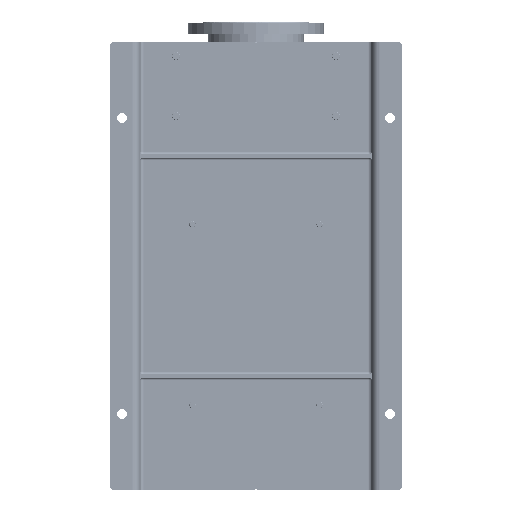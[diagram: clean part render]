
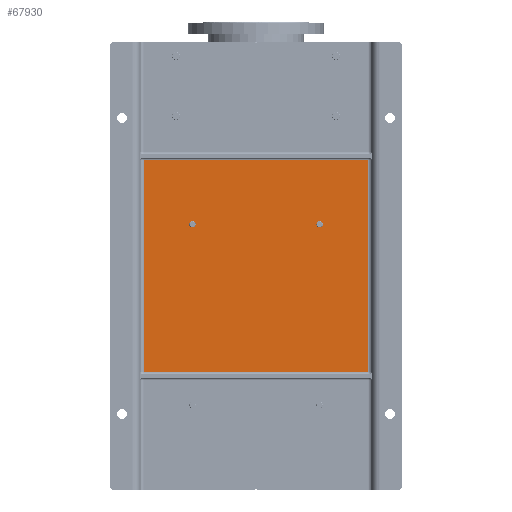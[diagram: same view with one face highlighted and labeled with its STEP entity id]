
A CAD part, front view. The second image highlights one B-rep face of the part: STEP entity #67930.
In plain terms, the highlighted planar face has unit normal (0, -1, 0).
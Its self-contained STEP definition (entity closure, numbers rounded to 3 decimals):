
#5857 = FACE_OUTER_BOUND ( 'NONE', #114286, .T. ) ;
#7331 = FACE_BOUND ( 'NONE', #181977, .T. ) ;
#8151 = CARTESIAN_POINT ( 'NONE',  ( 85., 90., -830. ) ) ;
#12058 = ORIENTED_EDGE ( 'NONE', *, *, #94462, .T. ) ;
#21697 = CARTESIAN_POINT ( 'NONE',  ( 645., 90., -295. ) ) ;
#23777 = DIRECTION ( 'NONE',  ( 0., 1., 0. ) ) ;
#28966 = EDGE_CURVE ( 'NONE', #144060, #136565, #280343, .T. ) ;
#29026 = CARTESIAN_POINT ( 'NONE',  ( 206., 90., -455.65 ) ) ;
#30212 = DIRECTION ( 'NONE',  ( 0., -1., 0. ) ) ;
#37233 = CIRCLE ( 'NONE', #270954, 8. ) ;
#42273 = EDGE_CURVE ( 'NONE', #57555, #279715, #37233, .T. ) ;
#44111 = VERTEX_POINT ( 'NONE', #119562 ) ;
#51928 = DIRECTION ( 'NONE',  ( 0., 1., 0. ) ) ;
#52429 = DIRECTION ( 'NONE',  ( 0., 0., -1. ) ) ;
#53102 = CARTESIAN_POINT ( 'NONE',  ( 75., 90., -1120. ) ) ;
#57555 = VERTEX_POINT ( 'NONE', #64915 ) ;
#60870 = LINE ( 'NONE', #173695, #184349 ) ;
#61190 = LINE ( 'NONE', #109921, #170456 ) ;
#64915 = CARTESIAN_POINT ( 'NONE',  ( 524., 90., -463.65 ) ) ;
#67930 = ADVANCED_FACE ( 'NONE', ( #146028, #7331, #5857 ), #168915, .T. ) ;
#68154 = CIRCLE ( 'NONE', #287288, 8. ) ;
#70028 = EDGE_CURVE ( 'NONE', #287381, #141738, #242417, .T. ) ;
#71506 = DIRECTION ( 'NONE',  ( -1., 0., 0. ) ) ;
#72776 = CARTESIAN_POINT ( 'NONE',  ( 206., 90., -463.65 ) ) ;
#79112 = ORIENTED_EDGE ( 'NONE', *, *, #42273, .T. ) ;
#81777 = VECTOR ( 'NONE', #52429, 1000. ) ;
#87502 = ORIENTED_EDGE ( 'NONE', *, *, #189994, .T. ) ;
#88940 = EDGE_CURVE ( 'NONE', #44111, #144060, #60870, .T. ) ;
#90477 = ORIENTED_EDGE ( 'NONE', *, *, #28966, .T. ) ;
#94462 = EDGE_CURVE ( 'NONE', #279715, #57555, #68154, .T. ) ;
#96922 = EDGE_LOOP ( 'NONE', ( #12058, #79112 ) ) ;
#102628 = CARTESIAN_POINT ( 'NONE',  ( 85., 90., -825. ) ) ;
#109921 = CARTESIAN_POINT ( 'NONE',  ( 75., 90., -825. ) ) ;
#113703 = CARTESIAN_POINT ( 'NONE',  ( 524., 90., -455.65 ) ) ;
#114286 = EDGE_LOOP ( 'NONE', ( #167112, #87502, #125199, #90477 ) ) ;
#119562 = CARTESIAN_POINT ( 'NONE',  ( 645., 90., -825. ) ) ;
#119575 = VECTOR ( 'NONE', #71506, 1000. ) ;
#122564 = VERTEX_POINT ( 'NONE', #102628 ) ;
#125199 = ORIENTED_EDGE ( 'NONE', *, *, #88940, .T. ) ;
#128259 = DIRECTION ( 'NONE',  ( 1., 0., 0. ) ) ;
#128739 = AXIS2_PLACEMENT_3D ( 'NONE', #212870, #189969, #183943 ) ;
#136008 = DIRECTION ( 'NONE',  ( 0., 1., 0. ) ) ;
#136565 = VERTEX_POINT ( 'NONE', #137286 ) ;
#137286 = CARTESIAN_POINT ( 'NONE',  ( 85., 90., -295. ) ) ;
#139072 = DIRECTION ( 'NONE',  ( 0., 0., 1. ) ) ;
#141738 = VERTEX_POINT ( 'NONE', #220781 ) ;
#141885 = DIRECTION ( 'NONE',  ( 0., 0., -1. ) ) ;
#144060 = VERTEX_POINT ( 'NONE', #21697 ) ;
#146028 = FACE_BOUND ( 'NONE', #96922, .T. ) ;
#153823 = CARTESIAN_POINT ( 'NONE',  ( 524., 90., -447.65 ) ) ;
#154058 = AXIS2_PLACEMENT_3D ( 'NONE', #53102, #30212, #264900 ) ;
#162960 = CIRCLE ( 'NONE', #128739, 8. ) ;
#163485 = CARTESIAN_POINT ( 'NONE',  ( 524., 90., -455.65 ) ) ;
#167112 = ORIENTED_EDGE ( 'NONE', *, *, #183540, .T. ) ;
#168915 = PLANE ( 'NONE',  #154058 ) ;
#170456 = VECTOR ( 'NONE', #128259, 1000. ) ;
#173695 = CARTESIAN_POINT ( 'NONE',  ( 645., 90., -290. ) ) ;
#181977 = EDGE_LOOP ( 'NONE', ( #244034, #267929 ) ) ;
#183540 = EDGE_CURVE ( 'NONE', #136565, #122564, #215521, .T. ) ;
#183943 = DIRECTION ( 'NONE',  ( 0., 0., -1. ) ) ;
#184349 = VECTOR ( 'NONE', #199575, 1000. ) ;
#189969 = DIRECTION ( 'NONE',  ( 0., 1., 0. ) ) ;
#189994 = EDGE_CURVE ( 'NONE', #122564, #44111, #61190, .T. ) ;
#199575 = DIRECTION ( 'NONE',  ( 0., 0., 1. ) ) ;
#212870 = CARTESIAN_POINT ( 'NONE',  ( 206., 90., -455.65 ) ) ;
#215521 = LINE ( 'NONE', #8151, #81777 ) ;
#220286 = CARTESIAN_POINT ( 'NONE',  ( 75., 90., -295. ) ) ;
#220781 = CARTESIAN_POINT ( 'NONE',  ( 206., 90., -447.65 ) ) ;
#223895 = EDGE_CURVE ( 'NONE', #141738, #287381, #162960, .T. ) ;
#242417 = CIRCLE ( 'NONE', #281412, 8. ) ;
#244034 = ORIENTED_EDGE ( 'NONE', *, *, #223895, .T. ) ;
#264900 = DIRECTION ( 'NONE',  ( 0., 0., -1. ) ) ;
#267929 = ORIENTED_EDGE ( 'NONE', *, *, #70028, .T. ) ;
#270954 = AXIS2_PLACEMENT_3D ( 'NONE', #113703, #23777, #275326 ) ;
#275326 = DIRECTION ( 'NONE',  ( 0., 0., 1. ) ) ;
#279715 = VERTEX_POINT ( 'NONE', #153823 ) ;
#280343 = LINE ( 'NONE', #220286, #119575 ) ;
#281412 = AXIS2_PLACEMENT_3D ( 'NONE', #29026, #51928, #141885 ) ;
#287288 = AXIS2_PLACEMENT_3D ( 'NONE', #163485, #136008, #139072 ) ;
#287381 = VERTEX_POINT ( 'NONE', #72776 ) ;
